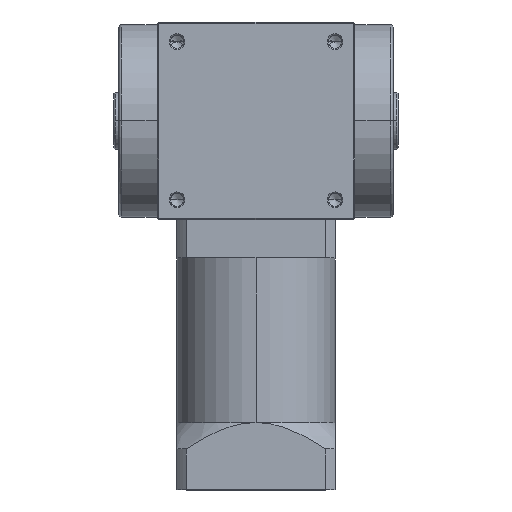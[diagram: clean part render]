
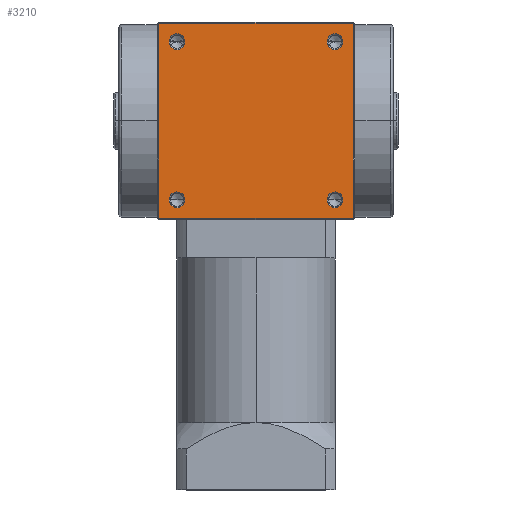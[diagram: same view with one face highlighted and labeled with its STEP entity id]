
A CAD part, top view. The second image highlights one B-rep face of the part: STEP entity #3210.
In plain terms, the highlighted planar face has unit normal (0, 0, 1).
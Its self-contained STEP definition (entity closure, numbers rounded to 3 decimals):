
#12 = CARTESIAN_POINT ( 'NONE',  ( 27., -30., 37.5 ) ) ;
#49 = EDGE_CURVE ( 'NONE', #8855, #3425, #62, .T. ) ;
#57 = DIRECTION ( 'NONE',  ( 0., 0., -1. ) ) ;
#62 = CIRCLE ( 'NONE', #5252, 3. ) ;
#73 = AXIS2_PLACEMENT_3D ( 'NONE', #8799, #57, #3772 ) ;
#205 = VECTOR ( 'NONE', #977, 1000. ) ;
#440 = EDGE_LOOP ( 'NONE', ( #2047, #7567 ) ) ;
#458 = CARTESIAN_POINT ( 'NONE',  ( 37., -37., 37.5 ) ) ;
#493 = DIRECTION ( 'NONE',  ( 0., 0., -1. ) ) ;
#512 = CARTESIAN_POINT ( 'NONE',  ( 27., 30., 37.5 ) ) ;
#686 = DIRECTION ( 'NONE',  ( -1., 0., 0. ) ) ;
#711 = LINE ( 'NONE', #3946, #5511 ) ;
#767 = EDGE_CURVE ( 'NONE', #5039, #3585, #8862, .T. ) ;
#902 = EDGE_LOOP ( 'NONE', ( #5785, #7433 ) ) ;
#977 = DIRECTION ( 'NONE',  ( 1., 0., 0. ) ) ;
#1098 = CARTESIAN_POINT ( 'NONE',  ( 30., 30., 37.5 ) ) ;
#1161 = EDGE_CURVE ( 'NONE', #2674, #6718, #1319, .T. ) ;
#1258 = DIRECTION ( 'NONE',  ( 0., 0., -1. ) ) ;
#1272 = CARTESIAN_POINT ( 'NONE',  ( -33., 30., 37.5 ) ) ;
#1319 = CIRCLE ( 'NONE', #2518, 3. ) ;
#1320 = ORIENTED_EDGE ( 'NONE', *, *, #767, .T. ) ;
#1456 = CIRCLE ( 'NONE', #73, 3. ) ;
#1701 = CARTESIAN_POINT ( 'NONE',  ( -30., 30., 37.5 ) ) ;
#1903 = DIRECTION ( 'NONE',  ( 0., 0., -1. ) ) ;
#1945 = CARTESIAN_POINT ( 'NONE',  ( -30., 30., 37.5 ) ) ;
#2047 = ORIENTED_EDGE ( 'NONE', *, *, #1161, .T. ) ;
#2064 = DIRECTION ( 'NONE',  ( 0., 0., -1. ) ) ;
#2075 = DIRECTION ( 'NONE',  ( -1., 0., 0. ) ) ;
#2458 = FACE_BOUND ( 'NONE', #902, .T. ) ;
#2498 = CARTESIAN_POINT ( 'NONE',  ( 0., 37., 37.5 ) ) ;
#2518 = AXIS2_PLACEMENT_3D ( 'NONE', #4807, #1258, #2075 ) ;
#2546 = CIRCLE ( 'NONE', #6852, 3. ) ;
#2590 = DIRECTION ( 'NONE',  ( -1., 0., 0. ) ) ;
#2674 = VERTEX_POINT ( 'NONE', #4324 ) ;
#2731 = AXIS2_PLACEMENT_3D ( 'NONE', #1098, #5274, #7302 ) ;
#2893 = EDGE_LOOP ( 'NONE', ( #1320, #5305 ) ) ;
#3108 = VERTEX_POINT ( 'NONE', #6580 ) ;
#3165 = EDGE_LOOP ( 'NONE', ( #6772, #6787, #5065, #7423 ) ) ;
#3210 = ADVANCED_FACE ( 'NONE', ( #2458, #5921, #6691, #7254, #5259 ), #3323, .F. ) ;
#3267 = CARTESIAN_POINT ( 'NONE',  ( -30., -30., 37.5 ) ) ;
#3323 = PLANE ( 'NONE',  #4020 ) ;
#3355 = VERTEX_POINT ( 'NONE', #512 ) ;
#3360 = EDGE_CURVE ( 'NONE', #3425, #8855, #1456, .T. ) ;
#3425 = VERTEX_POINT ( 'NONE', #7439 ) ;
#3585 = VERTEX_POINT ( 'NONE', #1272 ) ;
#3587 = CARTESIAN_POINT ( 'NONE',  ( -33., -30., 37.5 ) ) ;
#3589 = EDGE_CURVE ( 'NONE', #3355, #5795, #4699, .T. ) ;
#3712 = ORIENTED_EDGE ( 'NONE', *, *, #5310, .T. ) ;
#3772 = DIRECTION ( 'NONE',  ( -1., 0., 0. ) ) ;
#3789 = CARTESIAN_POINT ( 'NONE',  ( 0., -37., 37.5 ) ) ;
#3804 = AXIS2_PLACEMENT_3D ( 'NONE', #3267, #493, #7277 ) ;
#3862 = DIRECTION ( 'NONE',  ( -1., 0., 0. ) ) ;
#3899 = EDGE_CURVE ( 'NONE', #3585, #5039, #2546, .T. ) ;
#3911 = CARTESIAN_POINT ( 'NONE',  ( 30., -30., 37.5 ) ) ;
#3946 = CARTESIAN_POINT ( 'NONE',  ( 37., 0., 37.5 ) ) ;
#3971 = LINE ( 'NONE', #2498, #8431 ) ;
#4020 = AXIS2_PLACEMENT_3D ( 'NONE', #6066, #1903, #2590 ) ;
#4324 = CARTESIAN_POINT ( 'NONE',  ( -27., -30., 37.5 ) ) ;
#4353 = DIRECTION ( 'NONE',  ( 0., -1., 0. ) ) ;
#4436 = CIRCLE ( 'NONE', #2731, 3. ) ;
#4445 = DIRECTION ( 'NONE',  ( 0., 0., -1. ) ) ;
#4466 = EDGE_CURVE ( 'NONE', #8189, #3108, #6304, .T. ) ;
#4467 = AXIS2_PLACEMENT_3D ( 'NONE', #6266, #2064, #686 ) ;
#4571 = ORIENTED_EDGE ( 'NONE', *, *, #3589, .T. ) ;
#4699 = CIRCLE ( 'NONE', #4467, 3. ) ;
#4807 = CARTESIAN_POINT ( 'NONE',  ( -30., -30., 37.5 ) ) ;
#4852 = EDGE_CURVE ( 'NONE', #6718, #2674, #6625, .T. ) ;
#5039 = VERTEX_POINT ( 'NONE', #6300 ) ;
#5065 = ORIENTED_EDGE ( 'NONE', *, *, #8950, .T. ) ;
#5252 = AXIS2_PLACEMENT_3D ( 'NONE', #3911, #6701, #5978 ) ;
#5259 = FACE_OUTER_BOUND ( 'NONE', #3165, .T. ) ;
#5274 = DIRECTION ( 'NONE',  ( 0., 0., -1. ) ) ;
#5305 = ORIENTED_EDGE ( 'NONE', *, *, #3899, .T. ) ;
#5310 = EDGE_CURVE ( 'NONE', #5795, #3355, #4436, .T. ) ;
#5480 = DIRECTION ( 'NONE',  ( -1., 0., 0. ) ) ;
#5511 = VECTOR ( 'NONE', #6638, 1000. ) ;
#5785 = ORIENTED_EDGE ( 'NONE', *, *, #3360, .T. ) ;
#5795 = VERTEX_POINT ( 'NONE', #8683 ) ;
#5921 = FACE_BOUND ( 'NONE', #440, .T. ) ;
#5978 = DIRECTION ( 'NONE',  ( -1., 0., 0. ) ) ;
#6041 = DIRECTION ( 'NONE',  ( -1., 0., 0. ) ) ;
#6066 = CARTESIAN_POINT ( 'NONE',  ( 0., 0., 37.5 ) ) ;
#6266 = CARTESIAN_POINT ( 'NONE',  ( 30., 30., 37.5 ) ) ;
#6300 = CARTESIAN_POINT ( 'NONE',  ( -27., 30., 37.5 ) ) ;
#6304 = LINE ( 'NONE', #7142, #8389 ) ;
#6573 = LINE ( 'NONE', #3789, #205 ) ;
#6580 = CARTESIAN_POINT ( 'NONE',  ( -37., -37., 37.5 ) ) ;
#6625 = CIRCLE ( 'NONE', #3804, 3. ) ;
#6638 = DIRECTION ( 'NONE',  ( 0., 1., 0. ) ) ;
#6691 = FACE_BOUND ( 'NONE', #7795, .T. ) ;
#6701 = DIRECTION ( 'NONE',  ( 0., 0., -1. ) ) ;
#6718 = VERTEX_POINT ( 'NONE', #3587 ) ;
#6772 = ORIENTED_EDGE ( 'NONE', *, *, #4466, .T. ) ;
#6787 = ORIENTED_EDGE ( 'NONE', *, *, #7618, .T. ) ;
#6852 = AXIS2_PLACEMENT_3D ( 'NONE', #1701, #4445, #3862 ) ;
#7080 = AXIS2_PLACEMENT_3D ( 'NONE', #1945, #8206, #5480 ) ;
#7142 = CARTESIAN_POINT ( 'NONE',  ( -37., 0., 37.5 ) ) ;
#7167 = EDGE_CURVE ( 'NONE', #8992, #8189, #3971, .T. ) ;
#7254 = FACE_BOUND ( 'NONE', #2893, .T. ) ;
#7277 = DIRECTION ( 'NONE',  ( -1., 0., 0. ) ) ;
#7302 = DIRECTION ( 'NONE',  ( -1., 0., 0. ) ) ;
#7423 = ORIENTED_EDGE ( 'NONE', *, *, #7167, .T. ) ;
#7433 = ORIENTED_EDGE ( 'NONE', *, *, #49, .T. ) ;
#7439 = CARTESIAN_POINT ( 'NONE',  ( 33., -30., 37.5 ) ) ;
#7567 = ORIENTED_EDGE ( 'NONE', *, *, #4852, .T. ) ;
#7618 = EDGE_CURVE ( 'NONE', #3108, #7830, #6573, .T. ) ;
#7776 = CARTESIAN_POINT ( 'NONE',  ( -37., 37., 37.5 ) ) ;
#7795 = EDGE_LOOP ( 'NONE', ( #3712, #4571 ) ) ;
#7830 = VERTEX_POINT ( 'NONE', #458 ) ;
#8114 = CARTESIAN_POINT ( 'NONE',  ( 37., 37., 37.5 ) ) ;
#8189 = VERTEX_POINT ( 'NONE', #7776 ) ;
#8206 = DIRECTION ( 'NONE',  ( 0., 0., -1. ) ) ;
#8389 = VECTOR ( 'NONE', #4353, 1000. ) ;
#8431 = VECTOR ( 'NONE', #6041, 1000. ) ;
#8683 = CARTESIAN_POINT ( 'NONE',  ( 33., 30., 37.5 ) ) ;
#8799 = CARTESIAN_POINT ( 'NONE',  ( 30., -30., 37.5 ) ) ;
#8855 = VERTEX_POINT ( 'NONE', #12 ) ;
#8862 = CIRCLE ( 'NONE', #7080, 3. ) ;
#8950 = EDGE_CURVE ( 'NONE', #7830, #8992, #711, .T. ) ;
#8992 = VERTEX_POINT ( 'NONE', #8114 ) ;
